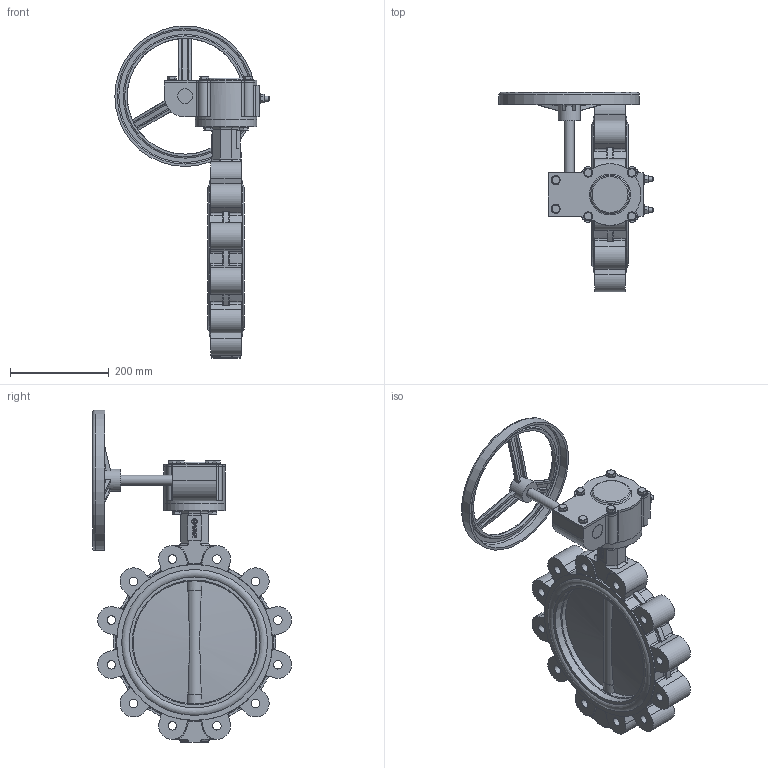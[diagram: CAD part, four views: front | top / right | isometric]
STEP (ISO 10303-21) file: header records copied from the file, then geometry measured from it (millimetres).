
FILE_DESCRIPTION(('STEP AP242'), '1');
FILE_NAME('Ïîâîðîòíûé çàòâîð ïîä ýëåêòðîïðèâîä', '', ('UNSPECIFIED'), ('UNSPECIFIED'), 'C3D Converter', 'C3D Toolkit', '');
FILE_SCHEMA(('AP242_MANAGED_MODEL_BASED_3D_ENGINEERING_MIM_LF { 1 0 10303 442 1 1 4 }'));
Length unit declared in the file: millimetre
Products named in the file (17): П
Assembly tree (36 placements, depth 3):
  (unnamed)
    (unnamed)
    П  x2
    (unnamed)
    (unnamed)
    (unnamed)
    (unnamed)
      (unnamed)
      (unnamed)
      (unnamed)
      (unnamed)
      (unnamed)  x6
      (unnamed)  x6
      (unnamed)
      (unnamed)  x2
      (unnamed)  x2
    (unnamed)  x4
    (unnamed)  x4
Bounding box: 313 x 403.43 x 673.5 mm (x, y, z)
Volume: 6814206.8 mm3; surface area: 1053571.6 mm2
Topology: 35 solids, 35 shells, 1066 faces, 2588 edges, 1650 vertices
Faces by surface type: plane 449, cylinder 280, extrusion 135, torus 102, bspline 52, cone 44, sphere 4
Full cylindrical faces by diameter (mm): 6 x2, 8.917 x2, 10 x30, 10.5 x10, 11.421 x1, 12 x4, 17.294 x12, 18 x10, 20 x3, 22 x5, 24.2 x1, 30 x2, 31.113 x5, 32.11 x4, 45 x1, 125 x2, 235 x1, 245 x1, 250 x1, 253.125 x2, 265.625 x2, 275 x1, 280.812 x4, 285 x1, 296 x4, 316.533 x2
Entity records: 41066 total; most frequent: CARTESIAN_POINT 17162, ORIENTED_EDGE 4286, DIRECTION 3899, EDGE_CURVE 2143, VERTEX_POINT 1444, AXIS2_PLACEMENT_3D 1413, EDGE_LOOP 1135, VECTOR 1073
